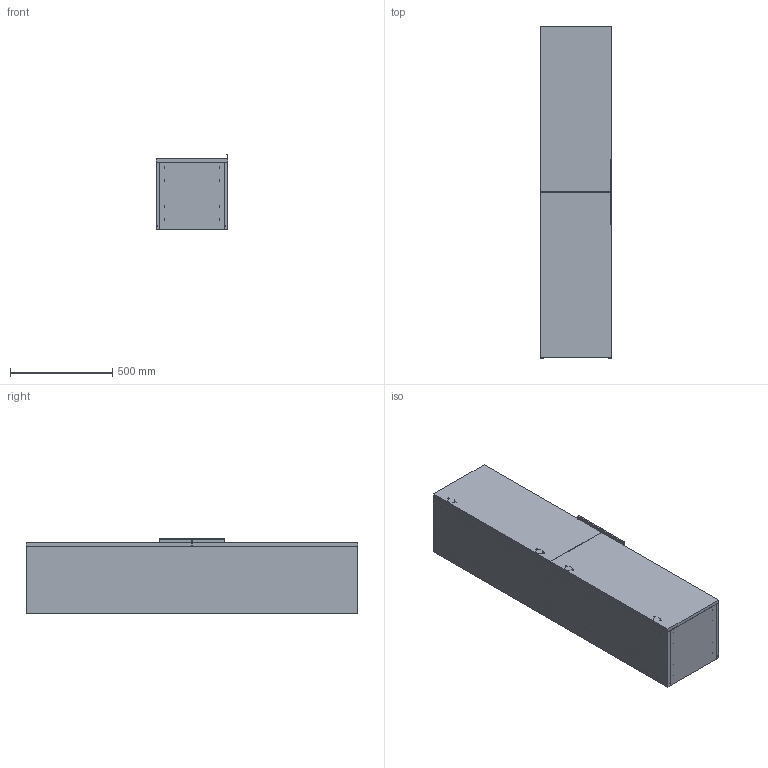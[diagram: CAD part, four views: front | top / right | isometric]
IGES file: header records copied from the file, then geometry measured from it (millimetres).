
Start section: SolidWorks IGES file using analytic representation for surfaces
Global section: file name: \\PDM-SQL\Technolodzy\WYROBY\_Nowa dokumentacja\S｣UPEK MARSYLIA 35 2D NEW - 164845N, 167890, VIGOUR - 167979, 167980, 167981\167979, 167980, 167981.IGS; native system: SolidWorks 2012; preprocessor: SolidWorks 2012; author: rkopecki; date: 200625.132334; units: millimetre
Bounding box: 350.45 x 1620 x 368.55 mm (x, y, z)
Surface area: 6129626.5 mm2 (no closed solid volume)
Topology: 0 solids, 0 shells, 982 faces, 17041 edges, 17041 vertices
Faces by surface type: bspline 495, revolution 487
